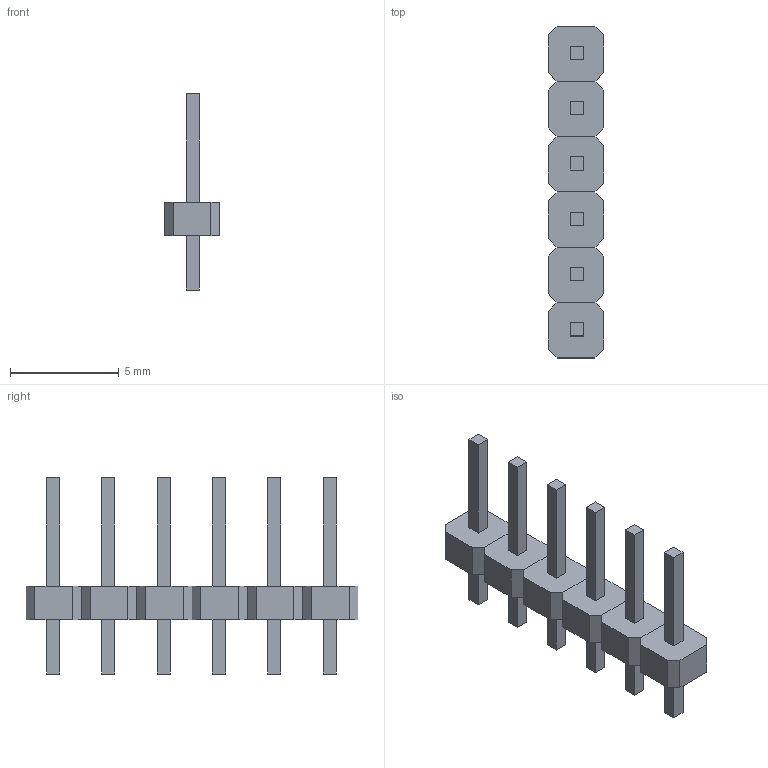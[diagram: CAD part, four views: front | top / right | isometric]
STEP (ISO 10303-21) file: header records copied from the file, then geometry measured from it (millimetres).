
FILE_DESCRIPTION(('FreeCAD Model'),'2;1');
FILE_NAME('Open CASCADE Shape Model','2025-02-25T20:24:04',( 'Krisjanis Rijnieks'),(''),'Open CASCADE STEP processor 7.7', 'FreeCAD','Unknown');
FILE_SCHEMA(('AUTOMOTIVE_DESIGN { 1 0 10303 214 1 1 1 1 }'));
Length unit declared in the file: millimetre
Products named in the file (15): 01x06_P2.54mm_Vertical_THT; 01x02_P2.54mm_Vertical_THT002; 01x01_P2.54mm_Vertical_THT015; PinHeader015; 01x01_P2.54mm_Vertical_THT016; PinHeader016; 01x04_P2.54mm_Vertical_THT001; 01x01_P2.54mm_Vertical_THT017; PinHeader017; 01x01_P2.54mm_Vertical_THT018; PinHeader018; 01x01_P2.54mm_Vertical_THT019; PinHeader019; 01x01_P2.54mm_Vertical_THT020; PinHeader020
Assembly tree (14 placements, depth 4):
  01x06_P2.54mm_Vertical_THT
    01x02_P2.54mm_Vertical_THT002
      01x01_P2.54mm_Vertical_THT015
        PinHeader015
      01x01_P2.54mm_Vertical_THT016
        PinHeader016
    01x04_P2.54mm_Vertical_THT001
      01x01_P2.54mm_Vertical_THT017
        PinHeader017
      01x01_P2.54mm_Vertical_THT018
        PinHeader018
      01x01_P2.54mm_Vertical_THT019
        PinHeader019
      01x01_P2.54mm_Vertical_THT020
        PinHeader020
Bounding box: 2.54 x 15.24 x 9 mm (x, y, z)
Volume: 72.8 mm3; surface area: 266.2 mm2
Topology: 6 solids, 6 shells, 120 faces, 288 edges, 192 vertices
Faces by surface type: plane 120
Entity records: 4147 total; most frequent: CARTESIAN_POINT 615, ORIENTED_EDGE 576, DIRECTION 558, EDGE_CURVE 288, LINE 288, VECTOR 288, VERTEX_POINT 192, AXIS2_PLACEMENT_3D 135
